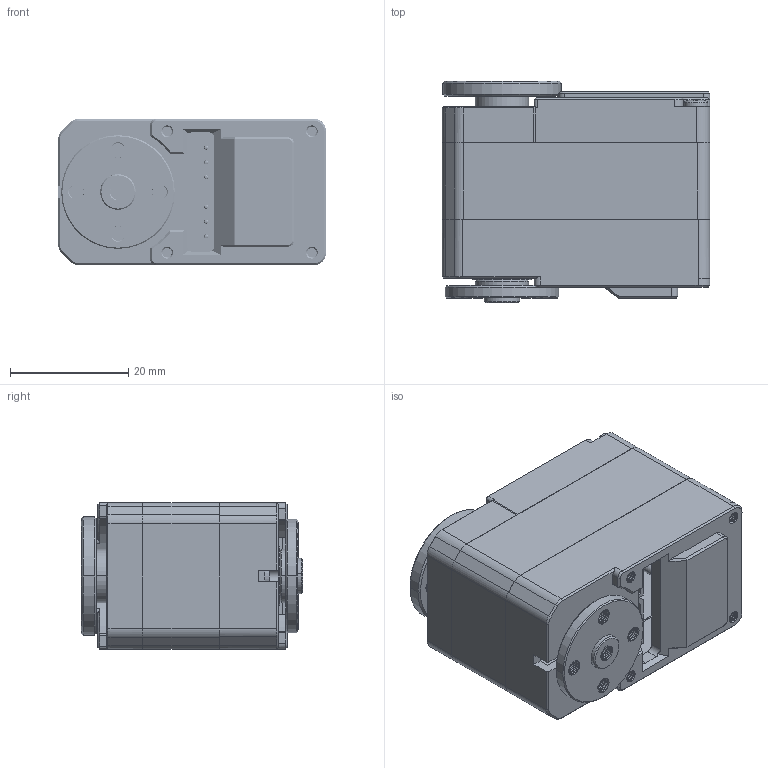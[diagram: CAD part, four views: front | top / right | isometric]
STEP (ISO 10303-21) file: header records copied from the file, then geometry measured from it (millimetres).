
FILE_DESCRIPTION((''),'2;1');
FILE_NAME('ST-3235M-20211119-A_ASM','2021-11-19T',('WUSALT01'),(''),'PRO/ENGINEER BY PARAMETRIC TECHNOLOGY CORPORATION, 2008380','PRO/ENGINEER BY PARAMETRIC TECHNOLOGY CORPORATION, 2008380','');
FILE_SCHEMA(('AUTOMOTIVE_DESIGN_CC2 { 1 2 10303 214 -1 1 5 2 }'));
Length unit declared in the file: millimetre
Products named in the file (14): PRT0001; ASM-_____ASM_5_ASM_7_ASM_ASM; PRT0002; PRT0003; PRT0004; PRT0005; PRT0006; PRT0007; OUTGEAR_ASM_2_ASM_ASM; SCS215_ASM_71_ASM_ASM; ST-3235M-20211119_ASM_ASM; FK-AP-019-20210309; WJ-DP00-0002-FK-AP-020_1; ST-3235M-20211119-A_ASM
Assembly tree (17 placements, depth 5):
  ST-3235M-20211119-A_ASM
    ST-3235M-20211119_ASM_ASM
      SCS215_ASM_71_ASM_ASM
        ASM-_____ASM_5_ASM_7_ASM_ASM
          PRT0001
        PRT0002
        PRT0003
        PRT0004  x4
        PRT0005  x2
        PRT0006
        OUTGEAR_ASM_2_ASM_ASM
          PRT0007
    FK-AP-019-20210309
    WJ-DP00-0002-FK-AP-020_1
Bounding box: 45.22 x 37.4 x 24.72 mm (x, y, z)
Volume: 11860.7 mm3; surface area: 20313.8 mm2
Topology: 13 solids, 13 shells, 2331 faces, 6942 edges, 4694 vertices
Faces by surface type: cylinder 1190, plane 591, bspline 194, extrusion 182, cone 158, torus 8, revolution 8
Entity records: 134634 total; most frequent: CARTESIAN_POINT 74481, ORIENTED_EDGE 13092, DIRECTION 10339, EDGE_CURVE 6546, VERTEX_POINT 4428, AXIS2_PLACEMENT_3D 3714, VECTOR 2909, LINE 2727
